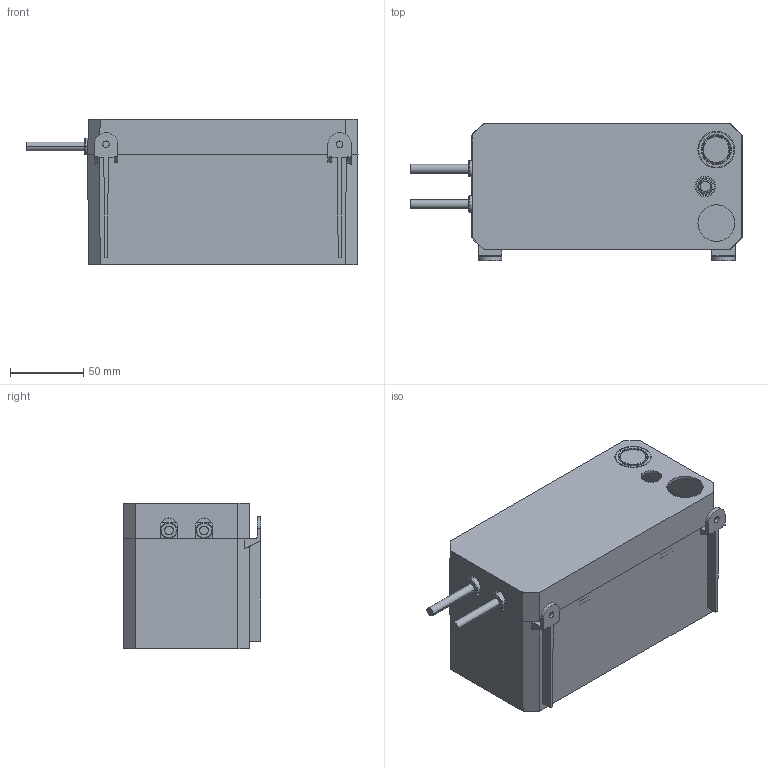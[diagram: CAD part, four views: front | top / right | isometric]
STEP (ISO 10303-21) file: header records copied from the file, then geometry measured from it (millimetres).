
FILE_DESCRIPTION(('Creo Elements/Direct Modeling STEP Export'),'2;1');
FILE_NAME('EE400_Pump+Tank.stp','2020-04-20T10:14:48',(''),(''),'Creo Elements/Direct Modeling STEP processor for AP214 (Solid Model)','Creo Elements/Direct Modeling 20.0 12-Nov-2016 (C) Parametric Technology GmbH','');
FILE_SCHEMA(('AUTOMOTIVE_DESIGN { 1 0 10303 214 1 1 1 1 }'));
Length unit declared in the file: millimetre
Products named in the file (25): 1; EE400-cover-.stp; EE400-body-.stp; EE400M_Tank; Deckel_Impellergehäuse_EE400; Deckel_EE400_Touchcell; Impellergehäuse_EE400; Pumpenblock_EE400_Touchcell; Kabeleinführung; Kabeleinführung.1; O-Ring; Ventil_Kappe; Ventil_Oberteil; V1; Ventil.1; Schraube.4.1.1.1.1.2; Schraube.4.1.1.1.1.1.1; Schraube.4.2; Schraube.4.1.2; Schraube.4.1.1.2; Schraube.4.1.1.1.2; Schrauben.1; EE400_Pump; EE400
Assembly tree (24 placements, depth 5):
  EE400
    EE400_Pump
      Schrauben.1
        Schraube.4.1.1.1.2
        Schraube.4.1.1.2
        Schraube.4.1.2
        Schraube.4.2
        Schraube.4.1.1.1.1.1.1
        Schraube.4.1.1.1.1.2
      Ventil.1
        V1
          Ventil_Oberteil
          Ventil_Kappe
          O-Ring
      Kabeleinführung.1
      Kabeleinführung
      Pumpenblock_EE400_Touchcell
      Impellergehäuse_EE400
      Deckel_EE400_Touchcell
      Deckel_Impellergehäuse_EE400
    EE400M_Tank
      EE400-body-.stp
        1
      EE400-cover-.stp
        1
Bounding box: 226 x 93.5 x 99 mm (x, y, z)
Volume: 922273.2 mm3; surface area: 279011.8 mm2
Topology: 17 solids, 17 shells, 675 faces, 1691 edges, 1066 vertices
Faces by surface type: plane 368, cylinder 223, torus 56, sphere 16, cone 12
Entity records: 23248 total; most frequent: CARTESIAN_POINT 5106, ORIENTED_EDGE 3350, DIRECTION 3201, EDGE_CURVE 1675, VECTOR 1107, LINE 1107, VERTEX_POINT 1066, AXIS2_PLACEMENT_3D 1047
